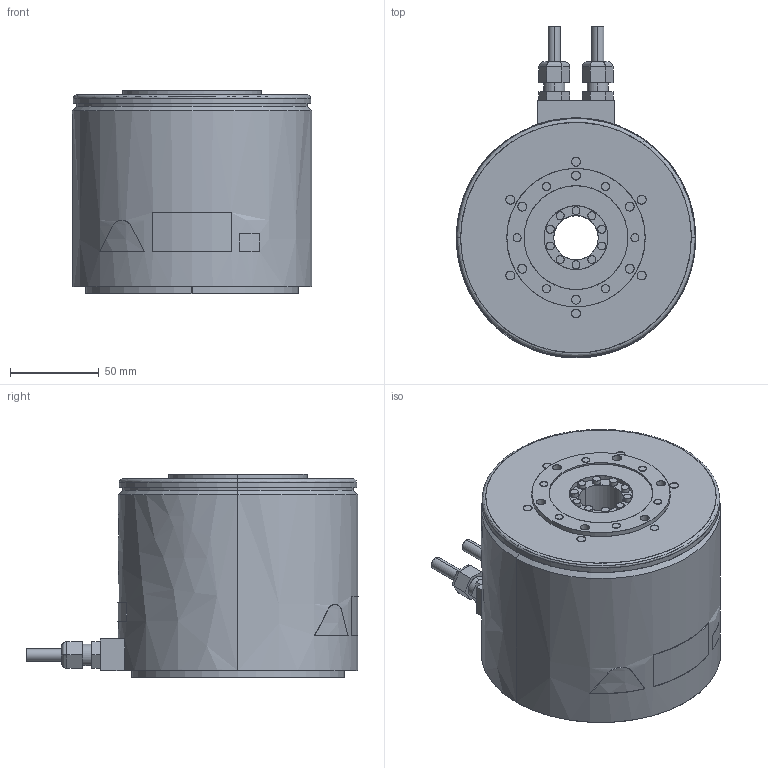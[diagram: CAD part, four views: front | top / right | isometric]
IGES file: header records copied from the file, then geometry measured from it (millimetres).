
Start section: SolidWorks IGES file using analytic representation for surfaces
Global section: file name: D:\YASKAWA\sgm7f_14b_a4_.IGS; native system: SolidWorks 2006 by SolidWorks Corporation; preprocessor: SolidWorks 2006 by SolidWorks Corporation; author: yamanouchi; date: 160724.152702; units: millimetre
Bounding box: 135 x 187.2 x 115 mm (x, y, z)
Surface area: 108474 mm2 (no closed solid volume)
Topology: 0 solids, 0 shells, 250 faces, 5386 edges, 5386 vertices
Faces by surface type: revolution 141, bspline 109
